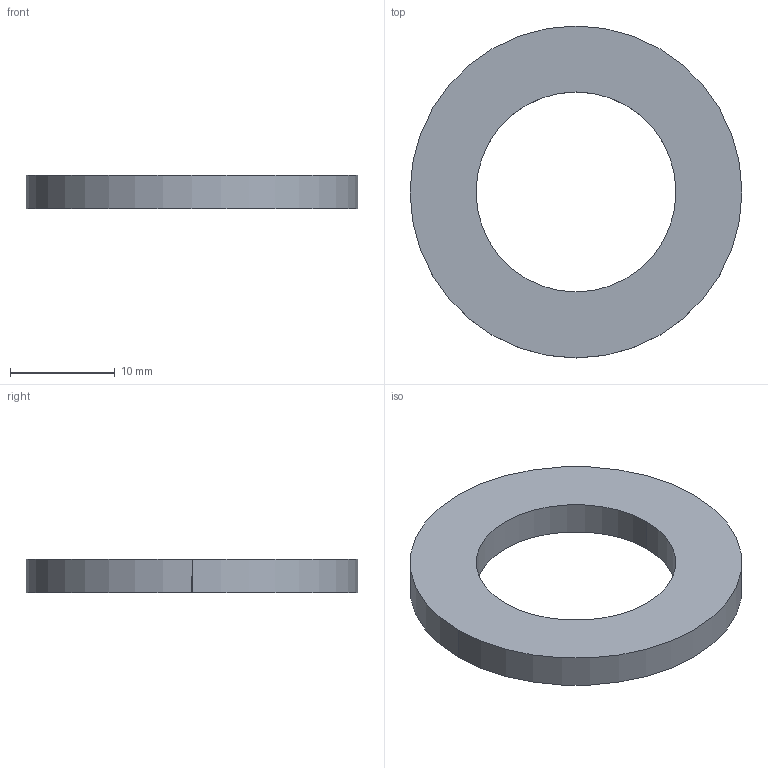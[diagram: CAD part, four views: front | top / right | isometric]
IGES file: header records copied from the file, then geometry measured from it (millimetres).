
Global section: file name: C:\Documents and Settings\Administrator\Desktop\Transfer Temp\tbb-12-20.igs; native system: AutoDesk Inventor R2.0 ; preprocessor: AutoDesk Inventor Iges Exporter R2.0; author: No Author specified; organization: No Organization specified; date: 20011230.162023; units: inch
Bounding box: 31.75 x 31.75 x 3.17 mm (x, y, z)
Surface area: 1516.3 mm2 (no closed solid volume)
Topology: 0 solids, 0 shells, 6 faces, 24 edges, 24 vertices
Faces by surface type: revolution 4, bspline 2
